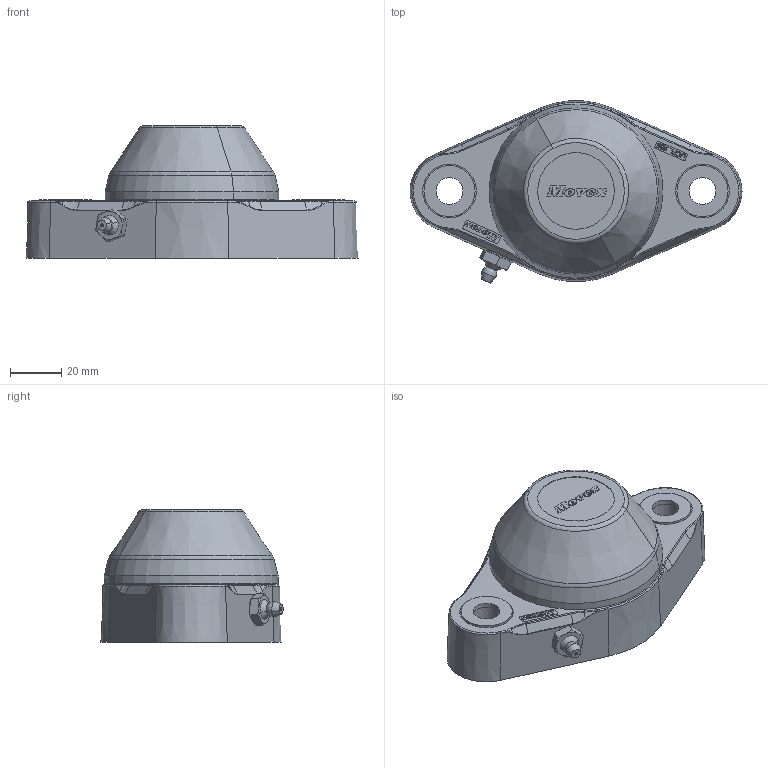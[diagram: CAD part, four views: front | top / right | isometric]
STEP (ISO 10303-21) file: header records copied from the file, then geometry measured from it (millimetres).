
FILE_DESCRIPTION(('CATIA V5 STEP Exchange'),'2;1');
FILE_NAME('X:\CODICI MOVEX\3D per clienti\3D definitivi\Part 800\P82411_01.stp','2016-11-24T13:00:02+00:00',('none'),('none'),'Version 5-6 Release 2012','CATIA V5 STEP AP203','none');
FILE_SCHEMA(('CONFIG_CONTROL_DESIGN'));
Length unit declared in the file: millimetre
Products named in the file (1): P82411_01
Assembly tree (10 placements, depth 2):
  P82411_01
    #58
    #48768
    #64173
    #68427
    #69955
    #71033
    #71156  x2
    #71513  x2
Bounding box: 129.93 x 71.35 x 52 mm (x, y, z)
Volume: 138171 mm3; surface area: 67500.6 mm2
Topology: 23 solids, 23 shells, 2267 faces, 6377 edges, 4110 vertices
Faces by surface type: plane 1827, cylinder 136, cone 99, torus 82, sphere 76, bspline 25, revolution 22
Entity records: 71676 total; most frequent: CARTESIAN_POINT 14799, ORIENTED_EDGE 12486, DIRECTION 10316, EDGE_CURVE 6243, VECTOR 5478, LINE 5478, VERTEX_POINT 4086, AXIS2_PLACEMENT_3D 2698
